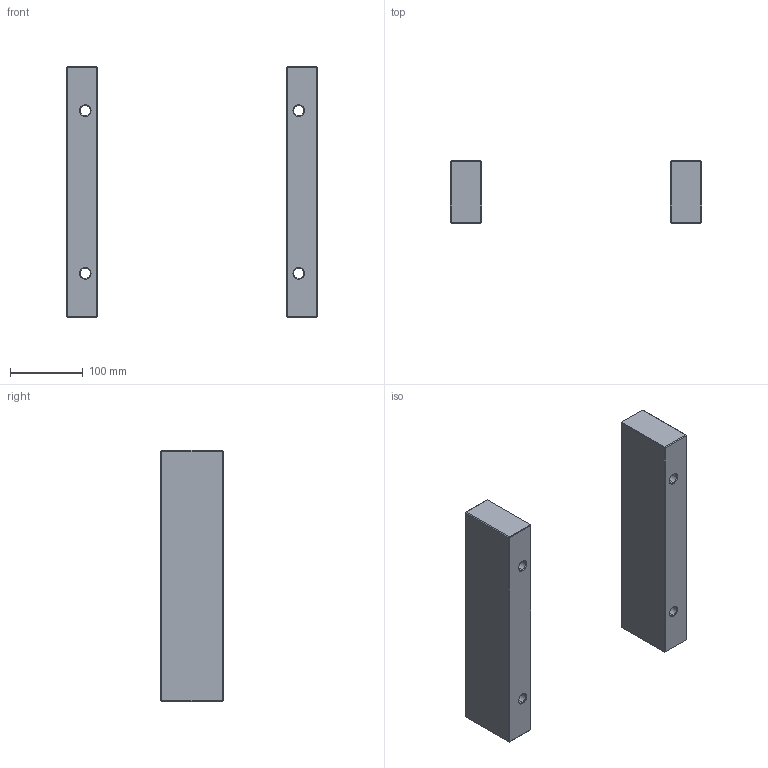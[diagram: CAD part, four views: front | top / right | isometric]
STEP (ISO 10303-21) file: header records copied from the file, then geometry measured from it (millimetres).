
FILE_DESCRIPTION (( 'STEP AP214' ), '1' );
FILE_NAME ('ESP-346X346x86.STEP', '2020-04-14T08:22:44', ( 'August' ), ( '' ), 'SwSTEP 2.0', 'SolidWorks 2018', '' );
FILE_SCHEMA (( 'AUTOMOTIVE_DESIGN' ));
Length unit declared in the file: millimetre
Products named in the file (1): ESP-346X346x86
Bounding box: 346 x 86 x 346 mm (x, y, z)
Volume: 2503987.7 mm3; surface area: 204798.7 mm2
Topology: 2 solids, 2 shells, 76 faces, 152 edges, 80 vertices
Faces by surface type: plane 52, cone 16, cylinder 8
Entity records: 1935 total; most frequent: DIRECTION 338, CARTESIAN_POINT 309, ORIENTED_EDGE 304, EDGE_CURVE 152, LINE 120, VECTOR 120, AXIS2_PLACEMENT_3D 109, EDGE_LOOP 84
